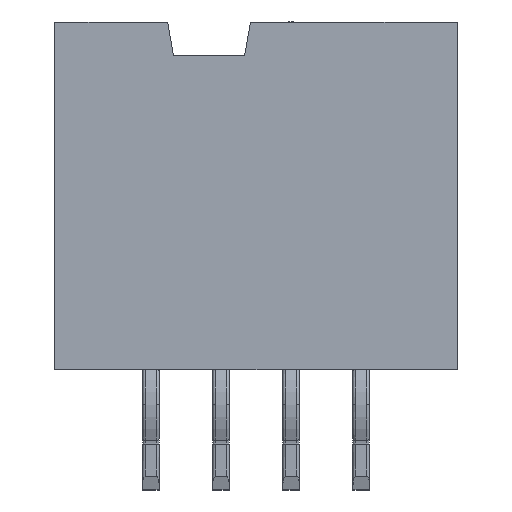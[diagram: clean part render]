
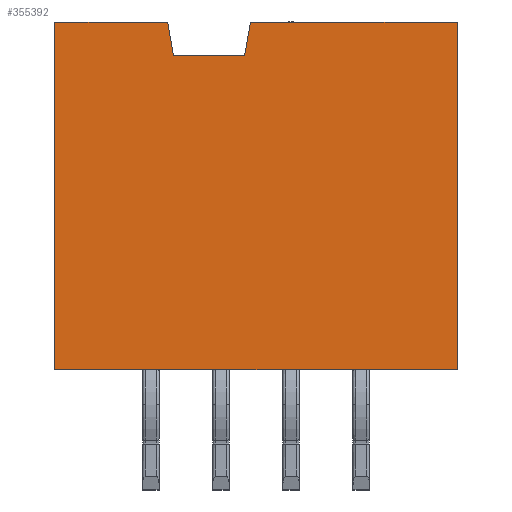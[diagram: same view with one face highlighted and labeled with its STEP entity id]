
A CAD part, left-side view. The second image highlights one B-rep face of the part: STEP entity #355392.
In plain terms, the highlighted planar face has unit normal (-1, 0, 0).
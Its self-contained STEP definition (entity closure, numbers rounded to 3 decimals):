
#76069 = EDGE_CURVE ( 'NONE', #206811, #207032, #78507, .T. ) ;
#76534 = VECTOR ( 'NONE', #78569, 1000. ) ;
#78507 = LINE ( 'NONE', #78561, #76534 ) ;
#78561 = CARTESIAN_POINT ( 'NONE',  ( -65.717, -5.41, 5.099 ) ) ;
#78569 = DIRECTION ( 'NONE',  ( 0., 0.174, -0.985 ) ) ;
#132235 = AXIS2_PLACEMENT_3D ( 'NONE', #263655, #263659, #263663 ) ;
#149360 = EDGE_CURVE ( 'NONE', #232014, #231995, #449866, .T. ) ;
#180013 = EDGE_CURVE ( 'NONE', #232014, #207032, #476504, .T. ) ;
#180017 = EDGE_CURVE ( 'NONE', #206811, #287044, #476527, .T. ) ;
#180038 = EDGE_CURVE ( 'NONE', #287044, #287069, #476684, .T. ) ;
#180956 = EDGE_CURVE ( 'NONE', #287274, #231995, #420268, .T. ) ;
#180961 = EDGE_CURVE ( 'NONE', #287274, #287252, #420603, .T. ) ;
#180968 = EDGE_CURVE ( 'NONE', #287069, #287252, #420641, .T. ) ;
#206811 = VERTEX_POINT ( 'NONE', #298111 ) ;
#207032 = VERTEX_POINT ( 'NONE', #298628 ) ;
#231995 = VERTEX_POINT ( 'NONE', #390759 ) ;
#232014 = VERTEX_POINT ( 'NONE', #390769 ) ;
#263567 = FACE_OUTER_BOUND ( 'NONE', #277086, .T. ) ;
#263650 = PLANE ( 'NONE',  #132235 ) ;
#263655 = CARTESIAN_POINT ( 'NONE',  ( -65.717, 1.468, -17.321 ) ) ;
#263659 = DIRECTION ( 'NONE',  ( 1., 0., 0. ) ) ;
#263663 = DIRECTION ( 'NONE',  ( 0., 0., -1. ) ) ;
#266221 = VECTOR ( 'NONE', #449873, 1000. ) ;
#274812 = VECTOR ( 'NONE', #476563, 1000. ) ;
#274818 = VECTOR ( 'NONE', #476516, 1000. ) ;
#274821 = VECTOR ( 'NONE', #476691, 1000. ) ;
#277086 = EDGE_LOOP ( 'NONE', ( #313196, #313209, #313217, #313226, #313237, #313247, #313257, #313269 ) ) ;
#287044 = VERTEX_POINT ( 'NONE', #442690 ) ;
#287069 = VERTEX_POINT ( 'NONE', #442708 ) ;
#287252 = VERTEX_POINT ( 'NONE', #442919 ) ;
#287274 = VERTEX_POINT ( 'NONE', #442956 ) ;
#298111 = CARTESIAN_POINT ( 'NONE',  ( -65.717, -5.622, 6.299 ) ) ;
#298628 = CARTESIAN_POINT ( 'NONE',  ( -65.717, -5.41, 5.099 ) ) ;
#313196 = ORIENTED_EDGE ( 'NONE', *, *, #76069, .T. ) ;
#313209 = ORIENTED_EDGE ( 'NONE', *, *, #180013, .F. ) ;
#313217 = ORIENTED_EDGE ( 'NONE', *, *, #149360, .T. ) ;
#313226 = ORIENTED_EDGE ( 'NONE', *, *, #180956, .F. ) ;
#313237 = ORIENTED_EDGE ( 'NONE', *, *, #180961, .T. ) ;
#313247 = ORIENTED_EDGE ( 'NONE', *, *, #180968, .F. ) ;
#313257 = ORIENTED_EDGE ( 'NONE', *, *, #180038, .F. ) ;
#313269 = ORIENTED_EDGE ( 'NONE', *, *, #180017, .F. ) ;
#355392 = ADVANCED_FACE ( 'NONE', ( #263567 ), #263650, .F. ) ;
#390759 = CARTESIAN_POINT ( 'NONE',  ( -65.717, -2.622, 6.299 ) ) ;
#390769 = CARTESIAN_POINT ( 'NONE',  ( -65.717, -2.833, 5.099 ) ) ;
#399235 = VECTOR ( 'NONE', #420514, 1000. ) ;
#399263 = VECTOR ( 'NONE', #420631, 1000. ) ;
#399284 = VECTOR ( 'NONE', #420760, 1000. ) ;
#420268 = LINE ( 'NONE', #420483, #399235 ) ;
#420483 = CARTESIAN_POINT ( 'NONE',  ( -65.717, 1.468, 6.299 ) ) ;
#420514 = DIRECTION ( 'NONE',  ( 0., -1., 0. ) ) ;
#420603 = LINE ( 'NONE', #420628, #399263 ) ;
#420628 = CARTESIAN_POINT ( 'NONE',  ( -65.717, 1.468, -17.321 ) ) ;
#420631 = DIRECTION ( 'NONE',  ( 0., 0., -1. ) ) ;
#420641 = LINE ( 'NONE', #420755, #399284 ) ;
#420755 = CARTESIAN_POINT ( 'NONE',  ( -65.717, -13.112, -6.301 ) ) ;
#420760 = DIRECTION ( 'NONE',  ( 0., 1., 0. ) ) ;
#442690 = CARTESIAN_POINT ( 'NONE',  ( -65.717, -13.112, 6.299 ) ) ;
#442708 = CARTESIAN_POINT ( 'NONE',  ( -65.717, -13.112, -6.301 ) ) ;
#442919 = CARTESIAN_POINT ( 'NONE',  ( -65.717, 1.468, -6.301 ) ) ;
#442956 = CARTESIAN_POINT ( 'NONE',  ( -65.717, 1.468, 6.299 ) ) ;
#449866 = LINE ( 'NONE', #449871, #266221 ) ;
#449871 = CARTESIAN_POINT ( 'NONE',  ( -65.717, -2.833, 5.099 ) ) ;
#449873 = DIRECTION ( 'NONE',  ( 0., 0.174, 0.985 ) ) ;
#476504 = LINE ( 'NONE', #476512, #274818 ) ;
#476512 = CARTESIAN_POINT ( 'NONE',  ( -65.717, 1.468, 5.099 ) ) ;
#476516 = DIRECTION ( 'NONE',  ( 0., -1., 0. ) ) ;
#476527 = LINE ( 'NONE', #476558, #274812 ) ;
#476558 = CARTESIAN_POINT ( 'NONE',  ( -65.717, 1.468, 6.299 ) ) ;
#476563 = DIRECTION ( 'NONE',  ( 0., -1., 0. ) ) ;
#476684 = LINE ( 'NONE', #476688, #274821 ) ;
#476688 = CARTESIAN_POINT ( 'NONE',  ( -65.717, -13.112, -17.321 ) ) ;
#476691 = DIRECTION ( 'NONE',  ( 0., 0., -1. ) ) ;
